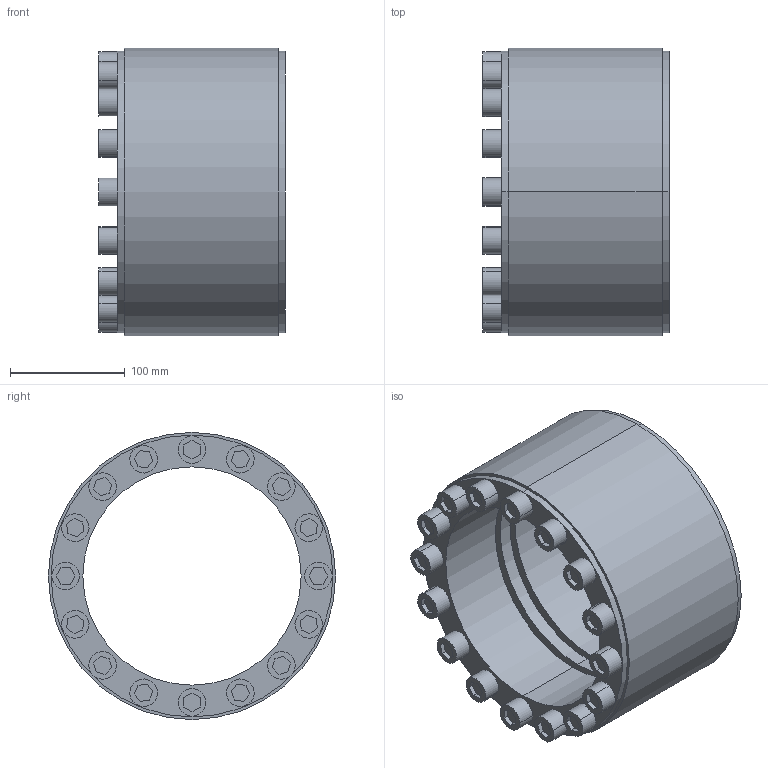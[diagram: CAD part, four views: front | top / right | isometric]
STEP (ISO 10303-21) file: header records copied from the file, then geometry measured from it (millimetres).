
FILE_DESCRIPTION (( 'STEP AP203' ), '1' );
FILE_NAME ('SF-190.STEP', '2009-09-29T17:19:16', ( 'USER' ), ( 'HOME' ), 'SwSTEP 2.0', 'SolidWorks 2007', '' );
FILE_SCHEMA (( 'CONFIG_CONTROL_DESIGN' ));
Length unit declared in the file: millimetre
Products named in the file (1): SF-190
Bounding box: 162 x 250 x 250 mm (x, y, z)
Volume: 2902626.5 mm3; surface area: 530602.4 mm2
Topology: 17 solids, 17 shells, 344 faces, 816 edges, 544 vertices
Faces by surface type: cylinder 176, plane 168
Entity records: 10293 total; most frequent: DIRECTION 1858, CARTESIAN_POINT 1705, ORIENTED_EDGE 1632, EDGE_CURVE 816, AXIS2_PLACEMENT_3D 697, VERTEX_POINT 544, EDGE_LOOP 480, VECTOR 464
